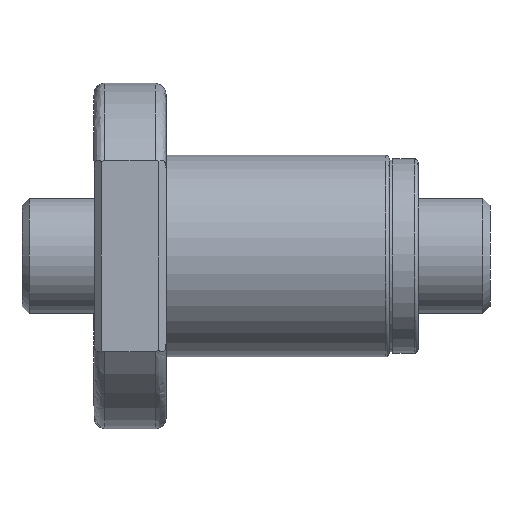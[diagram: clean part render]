
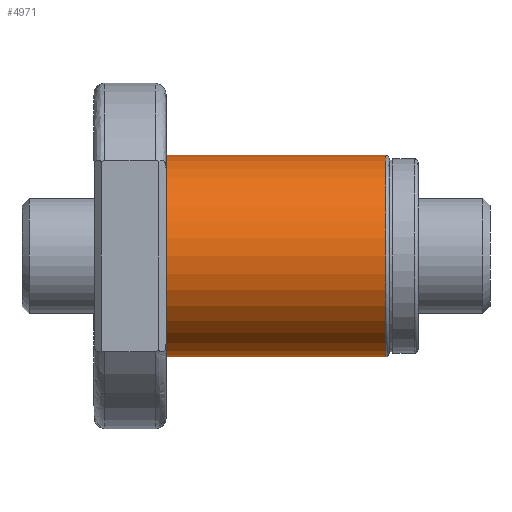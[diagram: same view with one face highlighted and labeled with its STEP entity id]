
A CAD part, front view. The second image highlights one B-rep face of the part: STEP entity #4971.
In plain terms, the highlighted cylindrical face has radius 14 mm (diameter 28 mm), a partial arc.
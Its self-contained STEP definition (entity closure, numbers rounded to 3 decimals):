
#142 = VECTOR ( 'NONE', #492, 1000. ) ;
#492 = DIRECTION ( 'NONE',  ( -1., 0., 0. ) ) ;
#646 = DIRECTION ( 'NONE',  ( -1., 0., 0. ) ) ;
#935 = DIRECTION ( 'NONE',  ( -1., 0., 0. ) ) ;
#1231 = DIRECTION ( 'NONE',  ( 0., 0., 1. ) ) ;
#1263 = CARTESIAN_POINT ( 'NONE',  ( 10., 0., 14. ) ) ;
#1336 = VERTEX_POINT ( 'NONE', #2572 ) ;
#1603 = DIRECTION ( 'NONE',  ( 0., 0., 1. ) ) ;
#2018 = AXIS2_PLACEMENT_3D ( 'NONE', #3004, #646, #1231 ) ;
#2139 = EDGE_CURVE ( 'NONE', #2986, #1336, #3265, .T. ) ;
#2338 = ORIENTED_EDGE ( 'NONE', *, *, #2139, .T. ) ;
#2513 = ORIENTED_EDGE ( 'NONE', *, *, #3476, .T. ) ;
#2572 = CARTESIAN_POINT ( 'NONE',  ( 40.5, 0., 14. ) ) ;
#2582 = ORIENTED_EDGE ( 'NONE', *, *, #7447, .F. ) ;
#2821 = CARTESIAN_POINT ( 'NONE',  ( 0., 0., 14. ) ) ;
#2918 = CIRCLE ( 'NONE', #3907, 14. ) ;
#2964 = VERTEX_POINT ( 'NONE', #6425 ) ;
#2986 = VERTEX_POINT ( 'NONE', #2993 ) ;
#2993 = CARTESIAN_POINT ( 'NONE',  ( 40.5, 0., -14. ) ) ;
#3004 = CARTESIAN_POINT ( 'NONE',  ( 40.5, 0., 0. ) ) ;
#3237 = AXIS2_PLACEMENT_3D ( 'NONE', #4448, #3374, #1603 ) ;
#3265 = CIRCLE ( 'NONE', #2018, 14. ) ;
#3374 = DIRECTION ( 'NONE',  ( -1., 0., 0. ) ) ;
#3476 = EDGE_CURVE ( 'NONE', #1336, #4669, #4197, .T. ) ;
#3855 = DIRECTION ( 'NONE',  ( 1., 0., 0. ) ) ;
#3907 = AXIS2_PLACEMENT_3D ( 'NONE', #5537, #3855, #5593 ) ;
#4197 = LINE ( 'NONE', #2821, #142 ) ;
#4209 = ORIENTED_EDGE ( 'NONE', *, *, #5154, .T. ) ;
#4445 = CYLINDRICAL_SURFACE ( 'NONE', #3237, 14. ) ;
#4448 = CARTESIAN_POINT ( 'NONE',  ( 0., 0., 0. ) ) ;
#4583 = VECTOR ( 'NONE', #935, 1000. ) ;
#4669 = VERTEX_POINT ( 'NONE', #1263 ) ;
#4971 = ADVANCED_FACE ( 'NONE', ( #4984 ), #4445, .T. ) ;
#4984 = FACE_OUTER_BOUND ( 'NONE', #6516, .T. ) ;
#5154 = EDGE_CURVE ( 'NONE', #4669, #2964, #2918, .T. ) ;
#5537 = CARTESIAN_POINT ( 'NONE',  ( 10., 0., 0. ) ) ;
#5562 = CARTESIAN_POINT ( 'NONE',  ( 0., 0., -14. ) ) ;
#5593 = DIRECTION ( 'NONE',  ( 0., 0., 1. ) ) ;
#6415 = LINE ( 'NONE', #5562, #4583 ) ;
#6425 = CARTESIAN_POINT ( 'NONE',  ( 10., 0., -14. ) ) ;
#6516 = EDGE_LOOP ( 'NONE', ( #2582, #2338, #2513, #4209 ) ) ;
#7447 = EDGE_CURVE ( 'NONE', #2986, #2964, #6415, .T. ) ;
